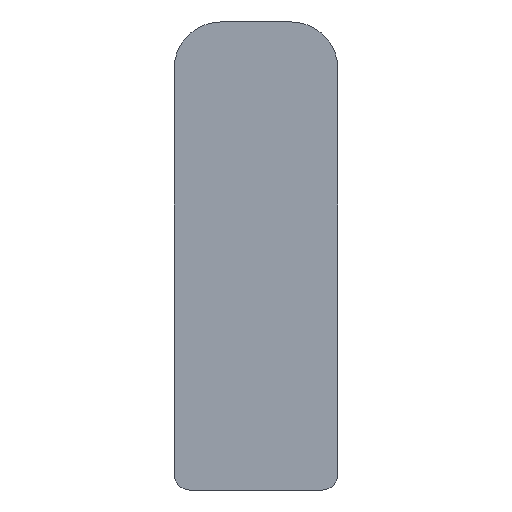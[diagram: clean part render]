
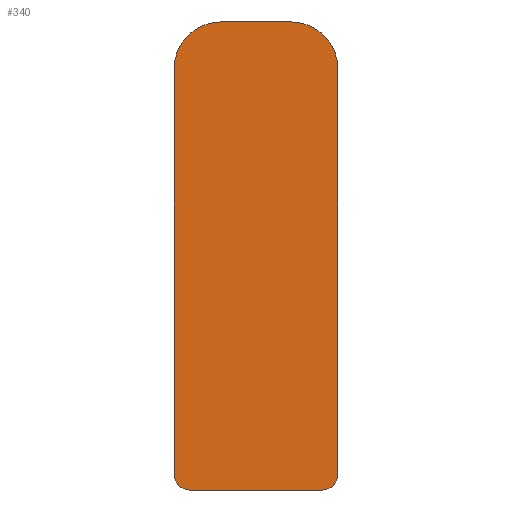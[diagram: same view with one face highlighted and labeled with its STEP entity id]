
A CAD part, left-side view. The second image highlights one B-rep face of the part: STEP entity #340.
In plain terms, the highlighted planar face has unit normal (-1, 0, 0).
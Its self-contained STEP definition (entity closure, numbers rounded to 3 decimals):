
#21 = FACE_OUTER_BOUND ( 'NONE', #128, .T. ) ;
#25 = AXIS2_PLACEMENT_3D ( 'NONE', #210, #209, #208 ) ;
#40 = AXIS2_PLACEMENT_3D ( 'NONE', #279, #278, #277 ) ;
#43 = AXIS2_PLACEMENT_3D ( 'NONE', #296, #295, #294 ) ;
#45 = AXIS2_PLACEMENT_3D ( 'NONE', #316, #315, #314 ) ;
#47 = AXIS2_PLACEMENT_3D ( 'NONE', #219, #215, #211 ) ;
#49 = EDGE_CURVE ( 'NONE', #280, #330, #109, .T. ) ;
#52 = EDGE_CURVE ( 'NONE', #310, #297, #101, .T. ) ;
#56 = EDGE_CURVE ( 'NONE', #297, #318, #77, .T. ) ;
#59 = EDGE_CURVE ( 'NONE', #318, #303, #96, .T. ) ;
#62 = EDGE_CURVE ( 'NONE', #303, #293, #90, .T. ) ;
#65 = EDGE_CURVE ( 'NONE', #293, #280, #83, .T. ) ;
#70 = EDGE_CURVE ( 'NONE', #330, #283, #181, .T. ) ;
#72 = EDGE_CURVE ( 'NONE', #283, #310, #175, .T. ) ;
#75 = VECTOR ( 'NONE', #325, 1000. ) ;
#77 = LINE ( 'NONE', #326, #75 ) ;
#83 = CIRCLE ( 'NONE', #43, 1. ) ;
#89 = VECTOR ( 'NONE', #305, 1000. ) ;
#90 = LINE ( 'NONE', #306, #89 ) ;
#96 = CIRCLE ( 'NONE', #45, 3. ) ;
#101 = CIRCLE ( 'NONE', #47, 3. ) ;
#108 = VECTOR ( 'NONE', #273, 1000. ) ;
#109 = LINE ( 'NONE', #276, #108 ) ;
#128 = EDGE_LOOP ( 'NONE', ( #155, #156, #157, #158, #159, #160, #161, #162 ) ) ;
#155 = ORIENTED_EDGE ( 'NONE', *, *, #52, .T. ) ;
#156 = ORIENTED_EDGE ( 'NONE', *, *, #56, .T. ) ;
#157 = ORIENTED_EDGE ( 'NONE', *, *, #59, .T. ) ;
#158 = ORIENTED_EDGE ( 'NONE', *, *, #62, .T. ) ;
#159 = ORIENTED_EDGE ( 'NONE', *, *, #65, .T. ) ;
#160 = ORIENTED_EDGE ( 'NONE', *, *, #49, .T. ) ;
#161 = ORIENTED_EDGE ( 'NONE', *, *, #70, .T. ) ;
#162 = ORIENTED_EDGE ( 'NONE', *, *, #72, .T. ) ;
#174 = VECTOR ( 'NONE', #271, 1000. ) ;
#175 = LINE ( 'NONE', #272, #174 ) ;
#181 = CIRCLE ( 'NONE', #40, 1. ) ;
#208 = DIRECTION ( 'NONE',  ( 0., 0., 1. ) ) ;
#209 = DIRECTION ( 'NONE',  ( -1., 0., 0. ) ) ;
#210 = CARTESIAN_POINT ( 'NONE',  ( -353.25, -2.25, 27. ) ) ;
#211 = DIRECTION ( 'NONE',  ( 0., 0., 1. ) ) ;
#212 = PLANE ( 'NONE',  #25 ) ;
#215 = DIRECTION ( 'NONE',  ( -1., 0., 0. ) ) ;
#219 = CARTESIAN_POINT ( 'NONE',  ( -353.25, -2.25, 27. ) ) ;
#246 = CARTESIAN_POINT ( 'NONE',  ( -353.25, -4.25, 0. ) ) ;
#250 = CARTESIAN_POINT ( 'NONE',  ( -353.25, 2.25, 30. ) ) ;
#252 = CARTESIAN_POINT ( 'NONE',  ( -353.25, -5.25, 27. ) ) ;
#254 = CARTESIAN_POINT ( 'NONE',  ( -353.25, 5.25, 27. ) ) ;
#256 = CARTESIAN_POINT ( 'NONE',  ( -353.25, -2.25, 30. ) ) ;
#257 = CARTESIAN_POINT ( 'NONE',  ( -353.25, 5.25, 1. ) ) ;
#260 = CARTESIAN_POINT ( 'NONE',  ( -353.25, -5.25, 1. ) ) ;
#261 = CARTESIAN_POINT ( 'NONE',  ( -353.25, 4.25, 0. ) ) ;
#271 = DIRECTION ( 'NONE',  ( 0., 0., 1. ) ) ;
#272 = CARTESIAN_POINT ( 'NONE',  ( -353.25, -5.25, 1. ) ) ;
#273 = DIRECTION ( 'NONE',  ( 0., -1., 0. ) ) ;
#276 = CARTESIAN_POINT ( 'NONE',  ( -353.25, -4.25, 0. ) ) ;
#277 = DIRECTION ( 'NONE',  ( 0., 0., -1. ) ) ;
#278 = DIRECTION ( 'NONE',  ( -1., 0., 0. ) ) ;
#279 = CARTESIAN_POINT ( 'NONE',  ( -353.25, -4.25, 1. ) ) ;
#280 = VERTEX_POINT ( 'NONE', #261 ) ;
#283 = VERTEX_POINT ( 'NONE', #260 ) ;
#293 = VERTEX_POINT ( 'NONE', #257 ) ;
#294 = DIRECTION ( 'NONE',  ( 0., 0., -1. ) ) ;
#295 = DIRECTION ( 'NONE',  ( -1., 0., 0. ) ) ;
#296 = CARTESIAN_POINT ( 'NONE',  ( -353.25, 4.25, 1. ) ) ;
#297 = VERTEX_POINT ( 'NONE', #256 ) ;
#303 = VERTEX_POINT ( 'NONE', #254 ) ;
#305 = DIRECTION ( 'NONE',  ( 0., 0., -1. ) ) ;
#306 = CARTESIAN_POINT ( 'NONE',  ( -353.25, 5.25, 1. ) ) ;
#310 = VERTEX_POINT ( 'NONE', #252 ) ;
#314 = DIRECTION ( 'NONE',  ( 0., 0., -1. ) ) ;
#315 = DIRECTION ( 'NONE',  ( -1., 0., 0. ) ) ;
#316 = CARTESIAN_POINT ( 'NONE',  ( -353.25, 2.25, 27. ) ) ;
#318 = VERTEX_POINT ( 'NONE', #250 ) ;
#325 = DIRECTION ( 'NONE',  ( 0., 1., 0. ) ) ;
#326 = CARTESIAN_POINT ( 'NONE',  ( -353.25, -2.25, 30. ) ) ;
#330 = VERTEX_POINT ( 'NONE', #246 ) ;
#340 = ADVANCED_FACE ( 'NONE', ( #21 ), #212, .T. ) ;
